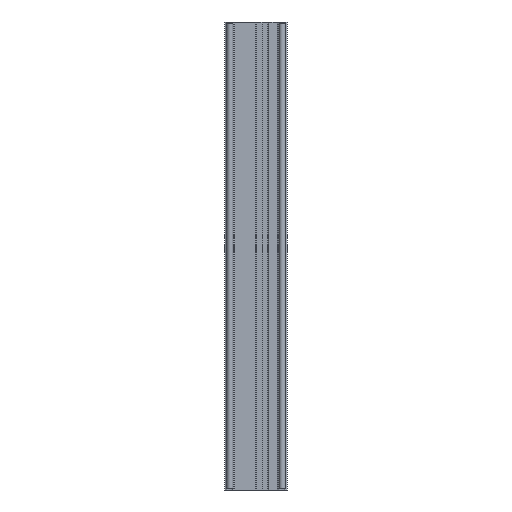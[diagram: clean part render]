
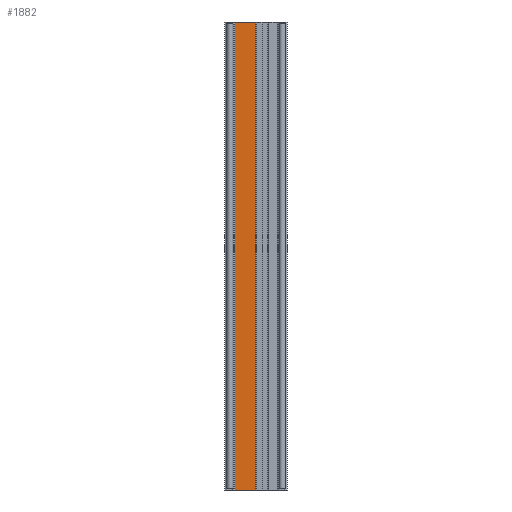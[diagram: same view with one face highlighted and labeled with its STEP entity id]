
A CAD part, left-side view. The second image highlights one B-rep face of the part: STEP entity #1882.
In plain terms, the highlighted planar face has unit normal (-1, 0, 0).
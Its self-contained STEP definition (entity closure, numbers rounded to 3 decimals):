
#1383 = EDGE_LOOP ( 'NONE', ( #1844, #1819, #1822, #1824 ) ) ;
#1819 = ORIENTED_EDGE ( 'NONE', *, *, #1820, .F. ) ;
#1820 = EDGE_CURVE ( 'NONE', #1821, #1845, #5663, .T. ) ;
#1821 = VERTEX_POINT ( 'NONE', #5659 ) ;
#1822 = ORIENTED_EDGE ( 'NONE', *, *, #1823, .T. ) ;
#1823 = EDGE_CURVE ( 'NONE', #1821, #1878, #5658, .T. ) ;
#1824 = ORIENTED_EDGE ( 'NONE', *, *, #1877, .T. ) ;
#1844 = ORIENTED_EDGE ( 'NONE', *, *, #1937, .F. ) ;
#1845 = VERTEX_POINT ( 'NONE', #5484 ) ;
#1877 = EDGE_CURVE ( 'NONE', #1878, #2100, #5739, .T. ) ;
#1878 = VERTEX_POINT ( 'NONE', #5788 ) ;
#1882 = ADVANCED_FACE ( 'NONE', ( #5783 ), #5782, .T. ) ;
#1937 = EDGE_CURVE ( 'NONE', #1845, #2100, #5913, .T. ) ;
#2100 = VERTEX_POINT ( 'NONE', #6075 ) ;
#5484 = CARTESIAN_POINT ( 'NONE',  ( -40., 67.222, 299. ) ) ;
#5655 = DIRECTION ( 'NONE',  ( 0., -1., 0. ) ) ;
#5656 = VECTOR ( 'NONE', #5655, 1000. ) ;
#5657 = CARTESIAN_POINT ( 'NONE',  ( -40., 40.3, -299. ) ) ;
#5658 = LINE ( 'NONE', #5657, #5656 ) ;
#5659 = CARTESIAN_POINT ( 'NONE',  ( -40., 67.222, -299. ) ) ;
#5660 = DIRECTION ( 'NONE',  ( 0., 0., 1. ) ) ;
#5661 = VECTOR ( 'NONE', #5660, 1000. ) ;
#5662 = CARTESIAN_POINT ( 'NONE',  ( -40., 67.222, -299. ) ) ;
#5663 = LINE ( 'NONE', #5662, #5661 ) ;
#5739 = LINE ( 'NONE', #5791, #5790 ) ;
#5778 = DIRECTION ( 'NONE',  ( 0., -1., 0. ) ) ;
#5779 = DIRECTION ( 'NONE',  ( -1., 0., 0. ) ) ;
#5780 = CARTESIAN_POINT ( 'NONE',  ( -40., 40.3, -299. ) ) ;
#5781 = AXIS2_PLACEMENT_3D ( 'NONE', #5780, #5779, #5778 ) ;
#5782 = PLANE ( 'NONE',  #5781 ) ;
#5783 = FACE_OUTER_BOUND ( 'NONE', #1383, .T. ) ;
#5788 = CARTESIAN_POINT ( 'NONE',  ( -40., 40.3, -299. ) ) ;
#5789 = DIRECTION ( 'NONE',  ( 0., 0., 1. ) ) ;
#5790 = VECTOR ( 'NONE', #5789, 1000. ) ;
#5791 = CARTESIAN_POINT ( 'NONE',  ( -40., 40.3, -299. ) ) ;
#5910 = DIRECTION ( 'NONE',  ( 0., -1., 0. ) ) ;
#5911 = VECTOR ( 'NONE', #5910, 1000. ) ;
#5912 = CARTESIAN_POINT ( 'NONE',  ( -40., 40.3, 299. ) ) ;
#5913 = LINE ( 'NONE', #5912, #5911 ) ;
#6075 = CARTESIAN_POINT ( 'NONE',  ( -40., 40.3, 299. ) ) ;
